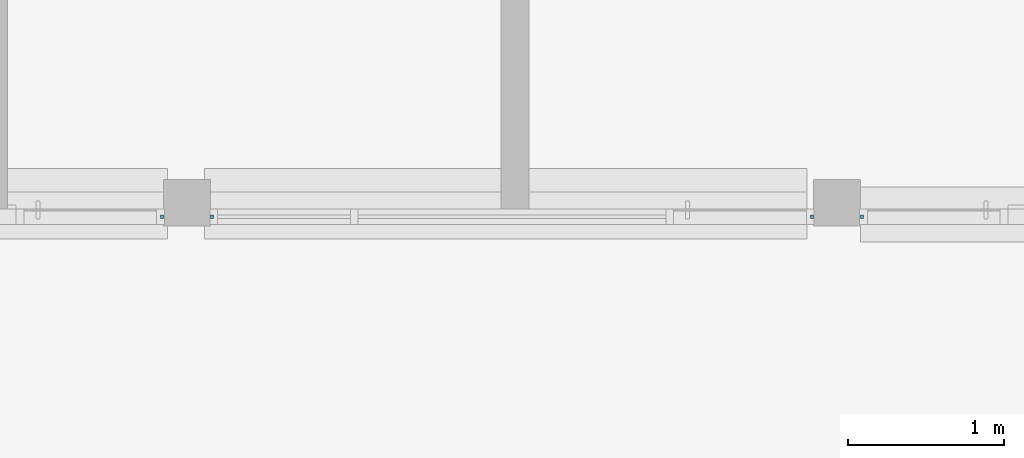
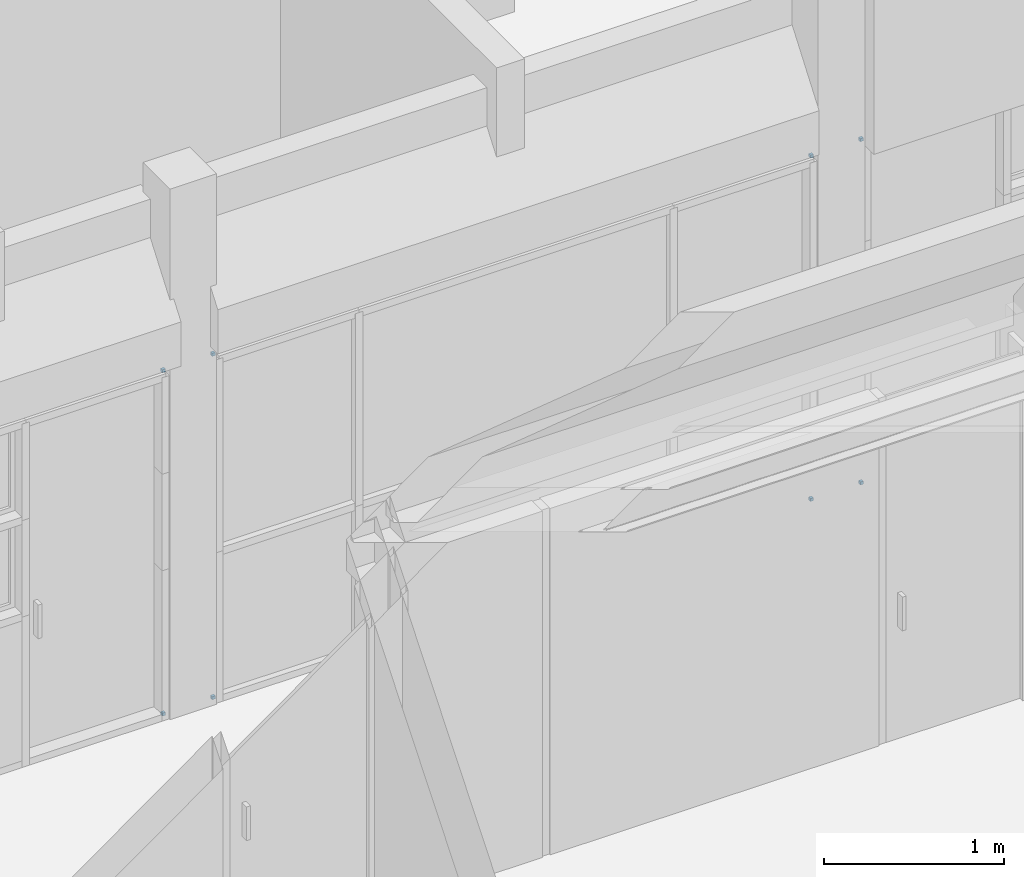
# One storey, part 65 of 117: 8 plates, 3 elements without a shape of their own.
"""IFC4 building model written with IfcOpenShell, lengths in metres."""

import ifcopenshell
import ifcopenshell.guid

model = None  # the IFC model being written
_history = None  # IfcOwnerHistory: only IFC2X3 demands one
_inside = {}  # id of a spatial element -> (the spatial element, [elements in it])
_under = {}  # id of a project, library or spatial element -> (it, [spatial elements below it])
_declared = {}  # id of a project -> (the project, [libraries it declares])
_typed = {}  # id of a type object -> (the type object, [elements of that type])
_made_of = {}  # id of a material, layer set ... -> (it, [elements and type objects made of it])


def new_model(schema):
    """Start an empty IFC model of exactly this schema.

    Asked for "IFC4X3", IfcOpenShell would pick the latest addendum, in which some entities
    have other attributes; the version numbers below select the first issue.
    IFC2X3 requires an IfcOwnerHistory on every rooted entity: one is made here for all.
    """
    global model, _history
    if schema == "IFC4X3":
        model = ifcopenshell.file(schema_version=(4, 3, 0, 0))
    else:
        model = ifcopenshell.file(schema=schema)
    _inside.clear()
    _under.clear()
    _declared.clear()
    _typed.clear()
    _made_of.clear()
    _history = None
    if model.schema == "IFC2X3":
        org = make("IfcOrganization", Name="unknown")
        user = make(
            "IfcPersonAndOrganization",
            ThePerson=make("IfcPerson", FamilyName="unknown"),
            TheOrganization=org,
        )
        app = make(
            "IfcApplication",
            ApplicationDeveloper=org,
            Version="unknown",
            ApplicationFullName="unknown",
            ApplicationIdentifier="unknown",
        )
        _history = make(
            "IfcOwnerHistory",
            OwningUser=user,
            OwningApplication=app,
            ChangeAction="ADDED",
            CreationDate=0,
        )
    return model


def make(cls, **values):
    """One entity of the class cls with the attributes given. An attribute that is None is left unset."""
    return model.create_entity(
        cls, **{name: value for name, value in values.items() if value is not None}
    )


def entity(cls, *values):
    """Any entity or typed value of the class cls, its attributes in the order of the schema. None: left unset."""
    e = model.create_entity(cls)
    for i, value in enumerate(values):
        if value is not None:
            e[i] = value
    return e


def rooted(cls, **values):
    """An entity with a GlobalId (a new one), such as an element, a storey or a relation."""
    return make(cls, GlobalId=ifcopenshell.guid.new(), OwnerHistory=_history, **values)


def si_unit(unit_type, name, prefix=None):
    """IfcSIUnit, for example si_unit("LENGTHUNIT", "METRE", prefix="MILLI")."""
    return make("IfcSIUnit", UnitType=unit_type, Prefix=prefix, Name=name)


def converted_unit(unit_type, name, factor, base, dimensions=None, offset=None):
    """IfcConversionBasedUnit, such as the inch: factor (a typed value) times the base unit."""
    return make(
        "IfcConversionBasedUnit"
        if offset is None
        else "IfcConversionBasedUnitWithOffset",
        ConversionOffset=offset,
        Dimensions=None
        if dimensions is None
        else entity("IfcDimensionalExponents", *dimensions),
        UnitType=unit_type,
        Name=name,
        ConversionFactor=make(
            "IfcMeasureWithUnit", ValueComponent=factor, UnitComponent=base
        ),
    )


def derived_unit(unit_type, elements):
    """IfcDerivedUnit: a product of units, each with its exponent."""
    return make(
        "IfcDerivedUnit",
        Elements=[
            make("IfcDerivedUnitElement", Unit=unit, Exponent=power)
            for unit, power in elements
        ],
        UnitType=unit_type,
    )


def assignment(units):
    """IfcUnitAssignment: the units of a project."""
    return None if units is None else make("IfcUnitAssignment", Units=units)


def point(xyz):
    """IfcCartesianPoint."""
    return None if xyz is None else make("IfcCartesianPoint", Coordinates=xyz)


def direction(xyz):
    """IfcDirection."""
    return None if xyz is None else make("IfcDirection", DirectionRatios=xyz)


def frame(location, z_axis=None, x_axis=None):
    """IfcAxis2Placement3D, a coordinate frame: its origin and axes. An axis left out is left unset."""
    return make(
        "IfcAxis2Placement3D",
        Location=point(location),
        Axis=direction(z_axis),
        RefDirection=direction(x_axis),
    )


def origin():
    """The frame at (0, 0, 0) with its axes left unset."""
    return frame((0.0, 0.0, 0.0))


def place(relative_to, where):
    """IfcLocalPlacement: puts the frame where relative to a parent placement (None: the world)."""
    return make(
        "IfcLocalPlacement", PlacementRelTo=relative_to, RelativePlacement=where
    )


def context(
    kind, dimensions, precision=None, world=None, true_north=None, identifier=None
):
    """IfcGeometricRepresentationContext, for example the 3D "Model" context."""
    return make(
        "IfcGeometricRepresentationContext",
        ContextIdentifier=identifier,
        ContextType=kind,
        CoordinateSpaceDimension=dimensions,
        Precision=precision,
        WorldCoordinateSystem=world,
        TrueNorth=true_north,
    )


def subcontext(parent, identifier, kind, view, scale=None):
    """IfcGeometricRepresentationSubContext, for example "Body" below "Model"."""
    return make(
        "IfcGeometricRepresentationSubContext",
        ContextIdentifier=identifier,
        ContextType=kind,
        ParentContext=parent,
        TargetScale=scale,
        TargetView=view,
    )


def project(units=None, contexts=None):
    """IfcProject with its units and contexts."""
    return rooted(
        "IfcProject",
        Name="project",
        RepresentationContexts=contexts,
        UnitsInContext=assignment(units),
    )


def spatial(cls, under=None, at=None, **own):
    """A site, building, storey or space (cls), placed at a placement, below another one or the project."""
    s = rooted(cls, ObjectPlacement=at, **own)
    if under is not None:
        _under.setdefault(under.id(), (under, []))[1].append(s)
    return s


def point_list(points):
    """IfcCartesianPointList2D or 3D."""
    cls = (
        "IfcCartesianPointList2D" if len(points[0]) == 2 else "IfcCartesianPointList3D"
    )
    return make(cls, CoordList=points)


def indexed_curve(points, segments=None, self_intersect=None):
    """IfcIndexedPolyCurve: lines and arcs through numbered points (the first is 1)."""
    return make(
        "IfcIndexedPolyCurve",
        Points=point_list(points),
        Segments=segments,
        SelfIntersect=self_intersect,
    )


def outline(outer, holes=None, kind="AREA"):
    """IfcArbitraryClosedProfileDef: a profile drawn as a closed curve; with holes, ...WithVoids."""
    if holes is None:
        return make("IfcArbitraryClosedProfileDef", ProfileType=kind, OuterCurve=outer)
    return make(
        "IfcArbitraryProfileDefWithVoids",
        ProfileType=kind,
        OuterCurve=outer,
        InnerCurves=holes,
    )


def extrude(swept, where, along, depth):
    """IfcExtrudedAreaSolid: the profile swept, set in the frame where, extruded along a direction by depth."""
    return make(
        "IfcExtrudedAreaSolid",
        SweptArea=swept,
        Position=where,
        ExtrudedDirection=direction(along),
        Depth=depth,
    )


def shape(context_of_items, identifier, shape_type, items):
    """IfcShapeRepresentation: the items that make up one representation, for example the "Body"."""
    return make(
        "IfcShapeRepresentation",
        ContextOfItems=context_of_items,
        RepresentationIdentifier=identifier,
        RepresentationType=shape_type,
        Items=items,
    )


def source(mapping_origin, context_of_items, identifier, shape_type, items):
    """IfcRepresentationMap: a shape defined once, which mapped items show again and again."""
    return make(
        "IfcRepresentationMap",
        MappingOrigin=mapping_origin,
        MappedRepresentation=shape(context_of_items, identifier, shape_type, items),
    )


def transform(
    local_origin,
    x_axis=None,
    y_axis=None,
    z_axis=None,
    scale=None,
    scale2=None,
    scale3=None,
    uniform=True,
):
    """IfcCartesianTransformationOperator3D, or its non-uniform kind. x_axis, y_axis, z_axis: its Axis1, 2, 3."""
    if uniform:
        return make(
            "IfcCartesianTransformationOperator3D",
            Axis1=direction(x_axis),
            Axis2=direction(y_axis),
            LocalOrigin=point(local_origin),
            Scale=scale,
            Axis3=direction(z_axis),
        )
    return make(
        "IfcCartesianTransformationOperator3DnonUniform",
        Axis1=direction(x_axis),
        Axis2=direction(y_axis),
        LocalOrigin=point(local_origin),
        Scale=scale,
        Axis3=direction(z_axis),
        Scale2=scale2,
        Scale3=scale3,
    )


def mapped(mapping_source, mapping_target):
    """IfcMappedItem: shows the shape of a source again, moved by a transform."""
    return make(
        "IfcMappedItem", MappingSource=mapping_source, MappingTarget=mapping_target
    )


def material(Name=None, Category=None):
    """IfcMaterial."""
    return make("IfcMaterial", Name=Name, Category=Category)


def made_of(thing, what):
    """Note that an element or type object is made of a material, layer set ...; save() writes the relation."""
    if what is not None:
        _made_of.setdefault(what.id(), (what, []))[1].append(thing)
    return thing


def type_object(cls, material=None, **own):
    """A type object (cls), such as IfcWallType, which elements share."""
    return made_of(rooted(cls, **own), material)


def type_shapes(of_type, sources):
    """Give a type object the sources (RepresentationMaps) that its elements show as mapped items."""
    of_type.RepresentationMaps = sources


def element(
    cls,
    number,
    at=None,
    inside=None,
    cuts=None,
    type_object=None,
    material=None,
    context=None,
    identifier="Body",
    shape_type=None,
    held_by="IfcProductDefinitionShape",
    body=None,
    shapes=None,
    **own,
):
    """One element of the class cls, such as IfcWall. Its Tag is "e" and its number.

    at: its placement. inside: the storey or other place that contains it. cuts: it is an
    opening in that element (IfcRelVoidsElement). A single representation is given by context,
    identifier, shape_type and body (its items); several are given by shapes. held_by: the class
    of the entity that holds the representations. save() writes the other relations.
    """
    e = rooted(cls, Tag="e%d" % number, ObjectPlacement=at, **own)
    if body is not None:
        shapes = [shape(context, identifier, shape_type, body)]
    if shapes is not None:
        e.Representation = make(held_by, Representations=shapes)
    if inside is not None:
        _inside.setdefault(inside.id(), (inside, []))[1].append(e)
    if cuts is not None:
        rooted(
            "IfcRelVoidsElement", RelatingBuildingElement=cuts, RelatedOpeningElement=e
        )
    if type_object is not None:
        _typed.setdefault(type_object.id(), (type_object, []))[1].append(e)
    return made_of(e, material)


def aggregate(whole, parts):
    """IfcRelAggregates: a whole, such as a stair, and the parts it consists of."""
    return rooted("IfcRelAggregates", RelatingObject=whole, RelatedObjects=parts)


def save(model, path):
    """Write the relations noted so far, then the file.

    IfcRelAggregates (storeys below a building ...), IfcRelContainedInSpatialStructure (elements
    in a storey), IfcRelDefinesByType, IfcRelAssociatesMaterial and IfcRelDeclares: one each for
    every whole, place, type object, material and project.
    """
    for whole, parts in _under.values():
        aggregate(whole, parts)
    for where, things in _inside.values():
        rooted(
            "IfcRelContainedInSpatialStructure",
            RelatedElements=things,
            RelatingStructure=where,
        )
    for kind, things in _typed.values():
        rooted("IfcRelDefinesByType", RelatedObjects=things, RelatingType=kind)
    for what, things in _made_of.values():
        rooted("IfcRelAssociatesMaterial", RelatedObjects=things, RelatingMaterial=what)
    for by, libraries in _declared.values():
        rooted("IfcRelDeclares", RelatingContext=by, RelatedDefinitions=libraries)
    model.write(path)


model = new_model("IFC4")

# Units and contexts
model_context = context("Model", 3, precision=1e-05, world=origin(), true_north=direction((6.123031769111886e-17, 1.0)))
body_context = subcontext(model_context, "Body", "Model", "MODEL_VIEW")
ifc_project = project(units=[si_unit("LENGTHUNIT", "METRE"), si_unit("AREAUNIT", "SQUARE_METRE"), si_unit("VOLUMEUNIT", "CUBIC_METRE"), converted_unit("PLANEANGLEUNIT", "DEGREE", entity("IfcRatioMeasure", 0.017453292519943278), si_unit("PLANEANGLEUNIT", "RADIAN"), dimensions=[0, 0, 0, 0, 0, 0, 0]), si_unit("MASSUNIT", "GRAM", prefix="KILO"), derived_unit("MASSDENSITYUNIT", [(si_unit("MASSUNIT", "GRAM", prefix="KILO"), 1), (si_unit("LENGTHUNIT", "METRE"), -3)]), derived_unit("MOMENTOFINERTIAUNIT", [(si_unit("LENGTHUNIT", "METRE"), 4)]), si_unit("TIMEUNIT", "SECOND"), si_unit("FREQUENCYUNIT", "HERTZ"), si_unit("THERMODYNAMICTEMPERATUREUNIT", "DEGREE_CELSIUS"), derived_unit("THERMALTRANSMITTANCEUNIT", [(si_unit("MASSUNIT", "GRAM", prefix="KILO"), 1), (si_unit("THERMODYNAMICTEMPERATUREUNIT", "KELVIN"), -1), (si_unit("TIMEUNIT", "SECOND"), -3)]), derived_unit("VOLUMETRICFLOWRATEUNIT", [(si_unit("LENGTHUNIT", "METRE"), 3), (si_unit("TIMEUNIT", "SECOND"), -1)]), derived_unit("MASSFLOWRATEUNIT", [(si_unit("MASSUNIT", "GRAM", prefix="KILO"), 1), (si_unit("TIMEUNIT", "SECOND"), -1)]), derived_unit("ROTATIONALFREQUENCYUNIT", [(si_unit("TIMEUNIT", "SECOND"), -1)]), si_unit("ELECTRICCURRENTUNIT", "AMPERE"), si_unit("ELECTRICVOLTAGEUNIT", "VOLT"), si_unit("POWERUNIT", "WATT"), si_unit("FORCEUNIT", "NEWTON", prefix="KILO"), si_unit("ILLUMINANCEUNIT", "LUX"), si_unit("LUMINOUSFLUXUNIT", "LUMEN"), si_unit("LUMINOUSINTENSITYUNIT", "CANDELA"), derived_unit("USERDEFINED", [(si_unit("MASSUNIT", "GRAM", prefix="KILO"), -1), (si_unit("LENGTHUNIT", "METRE"), -2), (si_unit("TIMEUNIT", "SECOND"), 3), (si_unit("LUMINOUSFLUXUNIT", "LUMEN"), 1)]), derived_unit("SOUNDPOWERUNIT", [(si_unit("MASSUNIT", "GRAM", prefix="KILO"), 1), (si_unit("LENGTHUNIT", "METRE"), 2), (si_unit("TIMEUNIT", "SECOND"), -3)]), derived_unit("SOUNDPRESSUREUNIT", [(si_unit("MASSUNIT", "GRAM", prefix="KILO"), 1), (si_unit("LENGTHUNIT", "METRE"), -1), (si_unit("TIMEUNIT", "SECOND"), -2)]), derived_unit("LINEARVELOCITYUNIT", [(si_unit("LENGTHUNIT", "METRE"), 1), (si_unit("TIMEUNIT", "SECOND"), -1)]), si_unit("PRESSUREUNIT", "PASCAL"), derived_unit("USERDEFINED", [(si_unit("LENGTHUNIT", "METRE"), -2), (si_unit("MASSUNIT", "GRAM", prefix="KILO"), 1), (si_unit("TIMEUNIT", "SECOND"), -2)]), derived_unit("LINEARFORCEUNIT", [(si_unit("MASSUNIT", "GRAM", prefix="KILO"), 1), (si_unit("LENGTHUNIT", "METRE"), 1), (si_unit("TIMEUNIT", "SECOND"), -2), (si_unit("LENGTHUNIT", "METRE"), -1)]), derived_unit("PLANARFORCEUNIT", [(si_unit("MASSUNIT", "GRAM", prefix="KILO"), 1), (si_unit("LENGTHUNIT", "METRE"), 1), (si_unit("TIMEUNIT", "SECOND"), -2), (si_unit("LENGTHUNIT", "METRE"), -2)])], contexts=[model_context])

# Site, building, storey
site_placement = place(None, origin())
site = spatial("IfcSite", under=ifc_project, at=site_placement, Name="Superficie", CompositionType="ELEMENT")
building_placement = place(site_placement, origin())
building = spatial("IfcBuilding", under=site, at=building_placement, CompositionType="ELEMENT")
storey_placement = place(building_placement, origin())
storey = spatial("IfcBuildingStorey", under=building, at=storey_placement, Name="Nivel 0", CompositionType="ELEMENT", Elevation=0.0)

# Curtain wall, plates
curtain_wall_type = type_object("IfcCurtainWallType", Name="Muro cortina:Muro cortina - simple", PredefinedType="NOTDEFINED")
curtain_wall_1_placement = place(storey_placement, origin())
curtain_wall_1 = element("IfcCurtainWall", 1, at=curtain_wall_1_placement, inside=storey, type_object=curtain_wall_type, Name="Muro cortina:Muro cortina - simple", ObjectType="Muro cortina:Muro cortina - simple", PredefinedType="NOTDEFINED")
ifc_material = material(Name="Cristal", Category="Vidrio")
plate_type = type_object("IfcPlateType", Name="Panel de sistema:Acristalado", PredefinedType="CURTAIN_PANEL", material=ifc_material)
shared_shape = source(origin(), body_context, "Body", "SweptSolid", [
    extrude(outline(indexed_curve([(-0.01, -0.009999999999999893), (0.01, -0.009999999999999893), (0.01, 0.009999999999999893), (-0.01, 0.009999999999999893), (-0.01, -0.009999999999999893)], self_intersect=False)), frame((0.0, 0.0, 0.0), z_axis=(0.0, 0.0, 1.0), x_axis=(0.0, 1.0, 0.0)), (0.0, 0.0, 1.0), 0.02000000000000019),
])
type_shapes(plate_type, [shared_shape])
plate_1_placement = place(curtain_wall_1_placement, frame((4.57155202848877, 5.7167397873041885, 0.0)))
plate_1 = element("IfcPlate", 2, at=plate_1_placement, type_object=plate_type, material=ifc_material, Name="Panel de sistema:Acristalado", ObjectType="Panel de sistema:Acristalado", PredefinedType="CURTAIN_PANEL", context=body_context, shape_type="MappedRepresentation", body=[
    mapped(shared_shape, transform((0.0, 0.0, 0.0), scale=1.0)),
])
plate_2_placement = place(curtain_wall_1_placement, frame((4.57155202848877, 5.7167397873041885, 2.33)))
plate_2 = element("IfcPlate", 3, at=plate_2_placement, type_object=plate_type, material=ifc_material, Name="Panel de sistema:Acristalado", ObjectType="Panel de sistema:Acristalado", PredefinedType="CURTAIN_PANEL", context=body_context, shape_type="MappedRepresentation", body=[
    mapped(shared_shape, transform((0.0, 0.0, 0.0), scale=1.0)),
])
aggregate(curtain_wall_1, [plate_1, plate_2])

curtain_wall_2_placement = place(storey_placement, origin())
curtain_wall_2 = element("IfcCurtainWall", 4, at=curtain_wall_2_placement, inside=storey, type_object=curtain_wall_type, Name="Muro cortina:Muro cortina - simple", ObjectType="Muro cortina:Muro cortina - simple", PredefinedType="NOTDEFINED")
plate_3_placement = place(curtain_wall_2_placement, frame((9.05155202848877, 5.716739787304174, 0.0)))
plate_3 = element("IfcPlate", 5, at=plate_3_placement, type_object=plate_type, material=ifc_material, Name="Panel de sistema:Acristalado", ObjectType="Panel de sistema:Acristalado", PredefinedType="CURTAIN_PANEL", context=body_context, shape_type="MappedRepresentation", body=[
    mapped(shared_shape, transform((0.0, 0.0, 0.0), scale=1.0)),
])
plate_4_placement = place(curtain_wall_2_placement, frame((9.05155202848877, 5.716739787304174, 2.33)))
plate_4 = element("IfcPlate", 6, at=plate_4_placement, type_object=plate_type, material=ifc_material, Name="Panel de sistema:Acristalado", ObjectType="Panel de sistema:Acristalado", PredefinedType="CURTAIN_PANEL", context=body_context, shape_type="MappedRepresentation", body=[
    mapped(shared_shape, transform((0.0, 0.0, 0.0), scale=1.0)),
])
aggregate(curtain_wall_2, [plate_3, plate_4])

curtain_wall_3_placement = place(storey_placement, origin())
curtain_wall_3 = element("IfcCurtainWall", 7, at=curtain_wall_3_placement, inside=storey, type_object=curtain_wall_type, Name="Muro cortina:Muro cortina - simple", ObjectType="Muro cortina:Muro cortina - simple", PredefinedType="NOTDEFINED")
plate_5_placement = place(curtain_wall_3_placement, frame((4.8915520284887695, 5.716739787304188, 0.0)))
plate_5 = element("IfcPlate", 8, at=plate_5_placement, type_object=plate_type, material=ifc_material, Name="Panel de sistema:Acristalado", ObjectType="Panel de sistema:Acristalado", PredefinedType="CURTAIN_PANEL", context=body_context, shape_type="MappedRepresentation", body=[
    mapped(shared_shape, transform((0.0, 0.0, 0.0), scale=1.0)),
])
plate_6_placement = place(curtain_wall_3_placement, frame((8.73155202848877, 5.716739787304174, 0.0)))
plate_6 = element("IfcPlate", 9, at=plate_6_placement, type_object=plate_type, material=ifc_material, Name="Panel de sistema:Acristalado", ObjectType="Panel de sistema:Acristalado", PredefinedType="CURTAIN_PANEL", context=body_context, shape_type="MappedRepresentation", body=[
    mapped(shared_shape, transform((0.0, 0.0, 0.0), scale=1.0)),
])
plate_7_placement = place(curtain_wall_3_placement, frame((4.8915520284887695, 5.716739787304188, 2.33)))
plate_7 = element("IfcPlate", 10, at=plate_7_placement, type_object=plate_type, material=ifc_material, Name="Panel de sistema:Acristalado", ObjectType="Panel de sistema:Acristalado", PredefinedType="CURTAIN_PANEL", context=body_context, shape_type="MappedRepresentation", body=[
    mapped(shared_shape, transform((0.0, 0.0, 0.0), scale=1.0)),
])
plate_8_placement = place(curtain_wall_3_placement, frame((8.73155202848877, 5.716739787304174, 2.33)))
plate_8 = element("IfcPlate", 11, at=plate_8_placement, type_object=plate_type, material=ifc_material, Name="Panel de sistema:Acristalado", ObjectType="Panel de sistema:Acristalado", PredefinedType="CURTAIN_PANEL", context=body_context, shape_type="MappedRepresentation", body=[
    mapped(shared_shape, transform((0.0, 0.0, 0.0), scale=1.0)),
])
aggregate(curtain_wall_3, [plate_5, plate_6, plate_7, plate_8])

save(model, "model.ifc")
